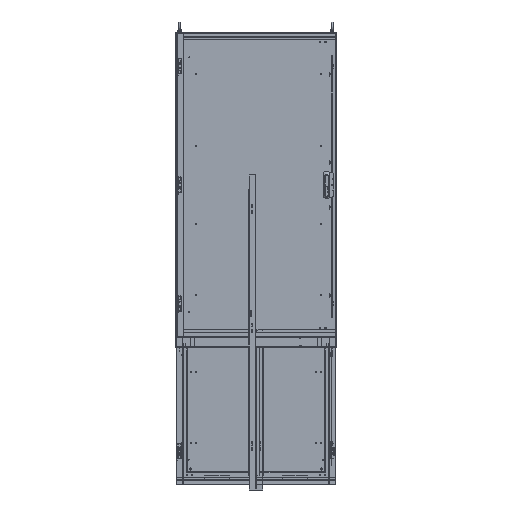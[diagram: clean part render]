
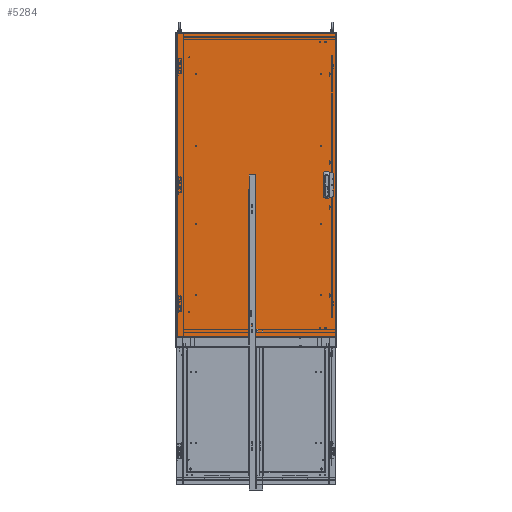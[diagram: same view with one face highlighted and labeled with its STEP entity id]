
A CAD part, front view. The second image highlights one B-rep face of the part: STEP entity #5284.
In plain terms, the highlighted planar face has unit normal (0, -1, 0).
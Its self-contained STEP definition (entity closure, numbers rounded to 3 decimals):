
#5284 = ADVANCED_FACE( '', ( #7858, #7859, #7860, #7861, #7862, #7863 ), #7864, .T. );
#7858 = FACE_BOUND( '', #12947, .T. );
#7859 = FACE_BOUND( '', #12948, .T. );
#7860 = FACE_BOUND( '', #12949, .T. );
#7861 = FACE_OUTER_BOUND( '', #12950, .T. );
#7862 = FACE_BOUND( '', #12951, .T. );
#7863 = FACE_BOUND( '', #12952, .T. );
#7864 = PLANE( '', #12953 );
#12947 = EDGE_LOOP( '', ( #21297, #21298, #21299, #21300 ) );
#12948 = EDGE_LOOP( '', ( #21301 ) );
#12949 = EDGE_LOOP( '', ( #21302, #21303, #21304, #21305 ) );
#12950 = EDGE_LOOP( '', ( #21306, #21307, #21308, #21309 ) );
#12951 = EDGE_LOOP( '', ( #21310, #21311, #21312, #21313 ) );
#12952 = EDGE_LOOP( '', ( #21314 ) );
#12953 = AXIS2_PLACEMENT_3D( '', #21315, #21316, #21317 );
#21297 = ORIENTED_EDGE( '', *, *, #37618, .F. );
#21298 = ORIENTED_EDGE( '', *, *, #37619, .F. );
#21299 = ORIENTED_EDGE( '', *, *, #37620, .F. );
#21300 = ORIENTED_EDGE( '', *, *, #37621, .F. );
#21301 = ORIENTED_EDGE( '', *, *, #37622, .T. );
#21302 = ORIENTED_EDGE( '', *, *, #37623, .F. );
#21303 = ORIENTED_EDGE( '', *, *, #37624, .F. );
#21304 = ORIENTED_EDGE( '', *, *, #37625, .F. );
#21305 = ORIENTED_EDGE( '', *, *, #37626, .F. );
#21306 = ORIENTED_EDGE( '', *, *, #37627, .T. );
#21307 = ORIENTED_EDGE( '', *, *, #37628, .F. );
#21308 = ORIENTED_EDGE( '', *, *, #37629, .F. );
#21309 = ORIENTED_EDGE( '', *, *, #37630, .F. );
#21310 = ORIENTED_EDGE( '', *, *, #37631, .T. );
#21311 = ORIENTED_EDGE( '', *, *, #37632, .T. );
#21312 = ORIENTED_EDGE( '', *, *, #37633, .T. );
#21313 = ORIENTED_EDGE( '', *, *, #37634, .T. );
#21314 = ORIENTED_EDGE( '', *, *, #37635, .T. );
#21315 = CARTESIAN_POINT( '', ( -497.65, 0., -948.531 ) );
#21316 = DIRECTION( '', ( 0., -1., 0. ) );
#21317 = DIRECTION( '', ( 0., 0., -1. ) );
#37618 = EDGE_CURVE( '', #43263, #43264, #43265, .T. );
#37619 = EDGE_CURVE( '', #43266, #43263, #43267, .T. );
#37620 = EDGE_CURVE( '', #43268, #43266, #43269, .T. );
#37621 = EDGE_CURVE( '', #43264, #43268, #43270, .T. );
#37622 = EDGE_CURVE( '', #43271, #43271, #43272, .T. );
#37623 = EDGE_CURVE( '', #43273, #43274, #43275, .T. );
#37624 = EDGE_CURVE( '', #43276, #43273, #43277, .T. );
#37625 = EDGE_CURVE( '', #43278, #43276, #43279, .T. );
#37626 = EDGE_CURVE( '', #43274, #43278, #43280, .T. );
#37627 = EDGE_CURVE( '', #43281, #43282, #43283, .T. );
#37628 = EDGE_CURVE( '', #43284, #43282, #43285, .T. );
#37629 = EDGE_CURVE( '', #43286, #43284, #43287, .T. );
#37630 = EDGE_CURVE( '', #43281, #43286, #43288, .T. );
#37631 = EDGE_CURVE( '', #43289, #43290, #43291, .T. );
#37632 = EDGE_CURVE( '', #43290, #43292, #43293, .T. );
#37633 = EDGE_CURVE( '', #43292, #43294, #43295, .T. );
#37634 = EDGE_CURVE( '', #43294, #43289, #43296, .T. );
#37635 = EDGE_CURVE( '', #43297, #43297, #43298, .T. );
#43263 = VERTEX_POINT( '', #52697 );
#43264 = VERTEX_POINT( '', #52698 );
#43265 = LINE( '', #52699, #52700 );
#43266 = VERTEX_POINT( '', #52701 );
#43267 = LINE( '', #52702, #52703 );
#43268 = VERTEX_POINT( '', #52704 );
#43269 = LINE( '', #52705, #52706 );
#43270 = LINE( '', #52707, #52708 );
#43271 = VERTEX_POINT( '', #52709 );
#43272 = CIRCLE( '', #52710, 4.013 );
#43273 = VERTEX_POINT( '', #52711 );
#43274 = VERTEX_POINT( '', #52712 );
#43275 = LINE( '', #52713, #52714 );
#43276 = VERTEX_POINT( '', #52715 );
#43277 = LINE( '', #52716, #52717 );
#43278 = VERTEX_POINT( '', #52718 );
#43279 = LINE( '', #52719, #52720 );
#43280 = LINE( '', #52721, #52722 );
#43281 = VERTEX_POINT( '', #52723 );
#43282 = VERTEX_POINT( '', #52724 );
#43283 = LINE( '', #52725, #52726 );
#43284 = VERTEX_POINT( '', #52727 );
#43285 = LINE( '', #52728, #52729 );
#43286 = VERTEX_POINT( '', #52730 );
#43287 = LINE( '', #52731, #52732 );
#43288 = LINE( '', #52733, #52734 );
#43289 = VERTEX_POINT( '', #52735 );
#43290 = VERTEX_POINT( '', #52736 );
#43291 = LINE( '', #52737, #52738 );
#43292 = VERTEX_POINT( '', #52739 );
#43293 = LINE( '', #52740, #52741 );
#43294 = VERTEX_POINT( '', #52742 );
#43295 = LINE( '', #52743, #52744 );
#43296 = LINE( '', #52745, #52746 );
#43297 = VERTEX_POINT( '', #52747 );
#43298 = CIRCLE( '', #52748, 4.013 );
#52697 = CARTESIAN_POINT( '', ( -450.132, 0., 75.006 ) );
#52698 = CARTESIAN_POINT( '', ( -450.132, 0., 24.994 ) );
#52699 = CARTESIAN_POINT( '', ( -450.132, 0., 75.006 ) );
#52700 = VECTOR( '', #67828, 1000. );
#52701 = CARTESIAN_POINT( '', ( -425.138, 0., 75.006 ) );
#52702 = CARTESIAN_POINT( '', ( -425.138, 0., 75.006 ) );
#52703 = VECTOR( '', #67829, 1000. );
#52704 = CARTESIAN_POINT( '', ( -425.138, 0., 24.994 ) );
#52705 = CARTESIAN_POINT( '', ( -425.138, 0., 24.994 ) );
#52706 = VECTOR( '', #67830, 1000. );
#52707 = CARTESIAN_POINT( '', ( -450.132, 0., 24.994 ) );
#52708 = VECTOR( '', #67831, 1000. );
#52709 = CARTESIAN_POINT( '', ( -469.613, 0., 35.001 ) );
#52710 = AXIS2_PLACEMENT_3D( '', #67832, #67833, #67834 );
#52711 = CARTESIAN_POINT( '', ( -474.147, 0., 15.875 ) );
#52712 = CARTESIAN_POINT( '', ( -474.147, 0., -15.875 ) );
#52713 = CARTESIAN_POINT( '', ( -474.147, 0., 15.875 ) );
#52714 = VECTOR( '', #67835, 1000. );
#52715 = CARTESIAN_POINT( '', ( -469.143, 0., 15.875 ) );
#52716 = CARTESIAN_POINT( '', ( -469.143, 0., 15.875 ) );
#52717 = VECTOR( '', #67836, 1000. );
#52718 = CARTESIAN_POINT( '', ( -469.143, 0., -15.875 ) );
#52719 = CARTESIAN_POINT( '', ( -469.143, 0., -15.875 ) );
#52720 = VECTOR( '', #67837, 1000. );
#52721 = CARTESIAN_POINT( '', ( -474.147, 0., -15.875 ) );
#52722 = VECTOR( '', #67838, 1000. );
#52723 = CARTESIAN_POINT( '', ( 494.906, 0., 945.788 ) );
#52724 = CARTESIAN_POINT( '', ( -494.906, 0., 945.788 ) );
#52725 = CARTESIAN_POINT( '', ( 494.906, 0., 945.788 ) );
#52726 = VECTOR( '', #67839, 1000. );
#52727 = CARTESIAN_POINT( '', ( -494.906, 0., -945.788 ) );
#52728 = CARTESIAN_POINT( '', ( -494.906, 0., -945.788 ) );
#52729 = VECTOR( '', #67840, 1000. );
#52730 = CARTESIAN_POINT( '', ( 494.906, 0., -945.788 ) );
#52731 = CARTESIAN_POINT( '', ( 494.906, 0., -945.788 ) );
#52732 = VECTOR( '', #67841, 1000. );
#52733 = CARTESIAN_POINT( '', ( 494.906, 0., 945.788 ) );
#52734 = VECTOR( '', #67842, 1000. );
#52735 = CARTESIAN_POINT( '', ( -450.132, 0., -25.019 ) );
#52736 = CARTESIAN_POINT( '', ( -425.138, 0., -25.019 ) );
#52737 = CARTESIAN_POINT( '', ( -450.132, 0., -25.019 ) );
#52738 = VECTOR( '', #67843, 1000. );
#52739 = CARTESIAN_POINT( '', ( -425.138, 0., -75.032 ) );
#52740 = CARTESIAN_POINT( '', ( -425.138, 0., -25.019 ) );
#52741 = VECTOR( '', #67844, 1000. );
#52742 = CARTESIAN_POINT( '', ( -450.132, 0., -75.032 ) );
#52743 = CARTESIAN_POINT( '', ( -425.138, 0., -75.032 ) );
#52744 = VECTOR( '', #67845, 1000. );
#52745 = CARTESIAN_POINT( '', ( -450.132, 0., -75.032 ) );
#52746 = VECTOR( '', #67846, 1000. );
#52747 = CARTESIAN_POINT( '', ( -469.613, 0., -35.001 ) );
#52748 = AXIS2_PLACEMENT_3D( '', #67847, #67848, #67849 );
#67828 = DIRECTION( '', ( 0., 0., -1. ) );
#67829 = DIRECTION( '', ( -1., 0., 0. ) );
#67830 = DIRECTION( '', ( 0., 0., 1. ) );
#67831 = DIRECTION( '', ( 1., 0., 0. ) );
#67832 = CARTESIAN_POINT( '', ( -473.627, 0., 35.001 ) );
#67833 = DIRECTION( '', ( 0., 1., 0. ) );
#67834 = DIRECTION( '', ( 1., 0., 0. ) );
#67835 = DIRECTION( '', ( 0., 0., -1. ) );
#67836 = DIRECTION( '', ( -1., 0., 0. ) );
#67837 = DIRECTION( '', ( 0., 0., 1. ) );
#67838 = DIRECTION( '', ( 1., 0., 0. ) );
#67839 = DIRECTION( '', ( -1., 0., 0. ) );
#67840 = DIRECTION( '', ( 0., 0., 1. ) );
#67841 = DIRECTION( '', ( -1., 0., 0. ) );
#67842 = DIRECTION( '', ( 0., 0., -1. ) );
#67843 = DIRECTION( '', ( 1., 0., 0. ) );
#67844 = DIRECTION( '', ( 0., 0., -1. ) );
#67845 = DIRECTION( '', ( -1., 0., 0. ) );
#67846 = DIRECTION( '', ( 0., 0., 1. ) );
#67847 = CARTESIAN_POINT( '', ( -473.627, 0., -35.001 ) );
#67848 = DIRECTION( '', ( 0., 1., 0. ) );
#67849 = DIRECTION( '', ( 1., 0., 0. ) );
